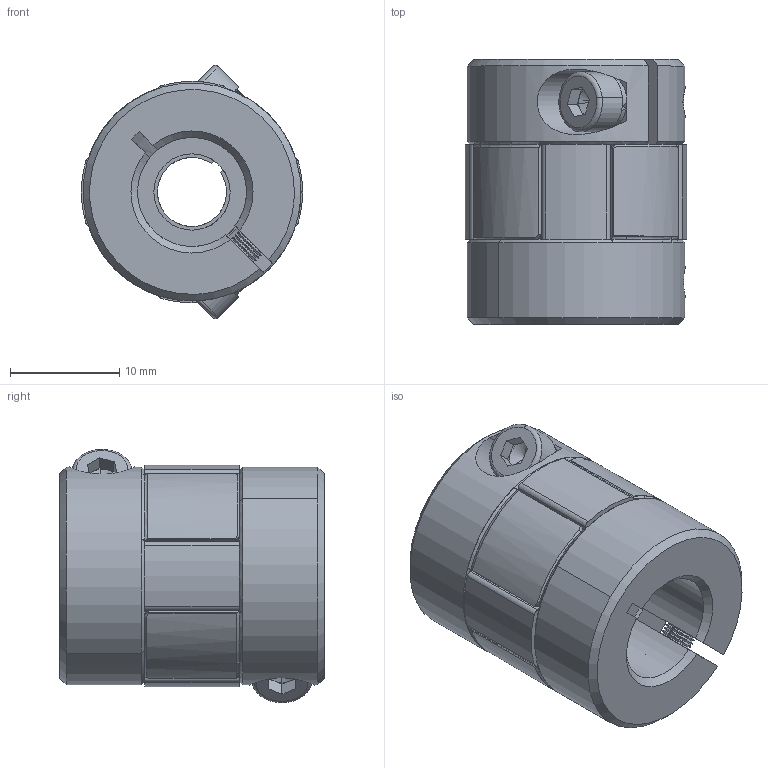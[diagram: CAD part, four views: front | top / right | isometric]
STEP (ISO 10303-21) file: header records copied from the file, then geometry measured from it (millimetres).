
FILE_DESCRIPTION (( 'STEP AP203' ), '1' );
FILE_NAME ('LF-B-D20L25-6.35-10.STEP', '2021-10-21T01:31:51', ( '' ), ( '' ), 'SwSTEP 2.0', 'SolidWorks 2018', '' );
FILE_SCHEMA (( 'CONFIG_CONTROL_DESIGN' ));
Length unit declared in the file: millimetre
Products named in the file (1): LF-B-D20L25-6.35-10
Bounding box: 20.31 x 24.3 x 23.23 mm (x, y, z)
Volume: 6208 mm3; surface area: 3597.7 mm2
Topology: 1 solids, 1 shells, 431 faces, 1082 edges, 642 vertices
Faces by surface type: cylinder 167, cone 158, plane 94, torus 12
Entity records: 13230 total; most frequent: CARTESIAN_POINT 2754, DIRECTION 2333, ORIENTED_EDGE 2156, EDGE_CURVE 1078, AXIS2_PLACEMENT_3D 959, VERTEX_POINT 642, CIRCLE 527, EDGE_LOOP 446
